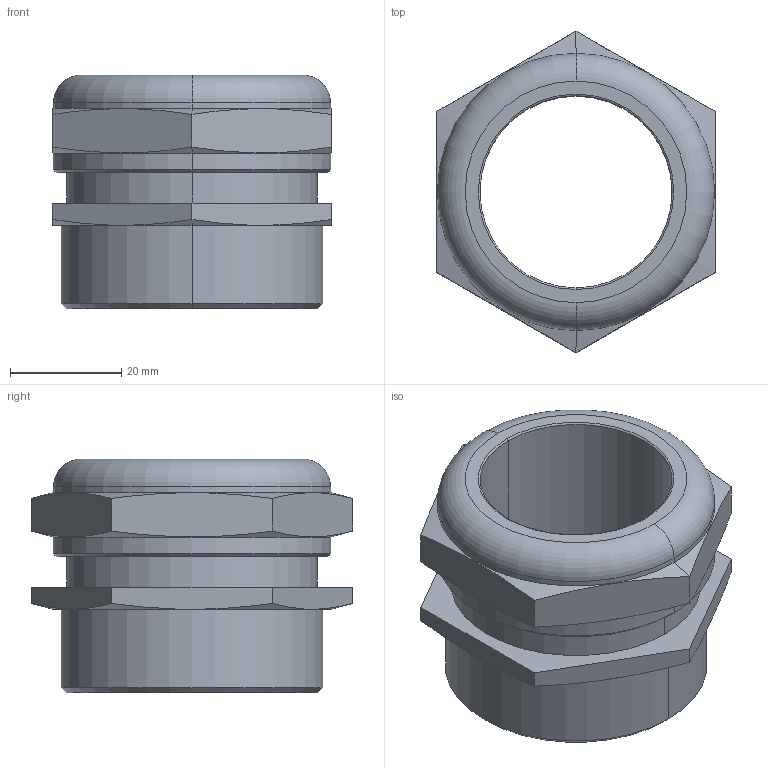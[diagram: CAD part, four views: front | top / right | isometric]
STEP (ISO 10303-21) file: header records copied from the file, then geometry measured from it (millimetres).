
FILE_DESCRIPTION (( 'STEP AP203' ), '1' );
FILE_NAME ('111136.STEP', '2006-10-04T12:29:02', ( ' ' ), ( '' ), 'SwSTEP 2.0', 'SolidWorks 2005278', '' );
FILE_SCHEMA (( 'CONFIG_CONTROL_DESIGN' ));
Length unit declared in the file: millimetre
Products named in the file (1): 111136
Bounding box: 50 x 57.73 x 42 mm (x, y, z)
Volume: 38905.2 mm3; surface area: 14061.1 mm2
Topology: 1 solids, 1 shells, 78 faces, 192 edges, 122 vertices
Faces by surface type: plane 54, cone 10, cylinder 10, torus 4
Entity records: 2461 total; most frequent: CARTESIAN_POINT 543, ORIENTED_EDGE 384, DIRECTION 366, EDGE_CURVE 192, LINE 140, VECTOR 140, VERTEX_POINT 122, AXIS2_PLACEMENT_3D 113
